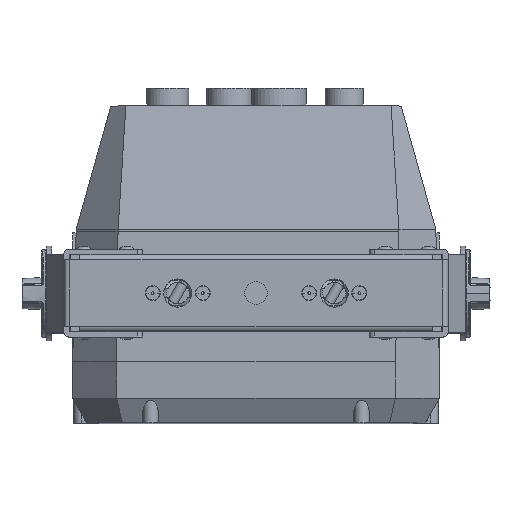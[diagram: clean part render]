
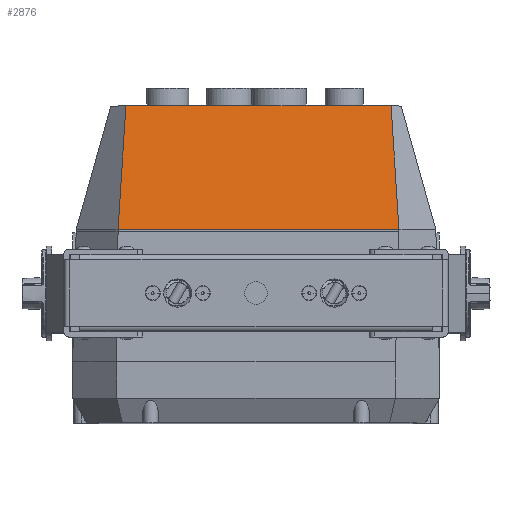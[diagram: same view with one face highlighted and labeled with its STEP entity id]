
A CAD part, top view. The second image highlights one B-rep face of the part: STEP entity #2876.
In plain terms, the highlighted planar face has unit normal (0, 0.152, 0.988).
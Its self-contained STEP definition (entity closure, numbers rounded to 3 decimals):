
#467=DIRECTION('',(0.063,0.986,-0.152));
#468=VECTOR('',#467,70.969);
#469=CARTESIAN_POINT('',(-78.472,110.3,102.3));
#470=LINE('',#469,#468);
#483=DIRECTION('',(1.,0.,0.));
#484=VECTOR('',#483,150.825);
#485=CARTESIAN_POINT('',(-73.998,180.3,91.5));
#486=LINE('',#485,#484);
#1125=DIRECTION('',(-0.063,0.986,-0.152));
#1126=VECTOR('',#1125,70.969);
#1127=CARTESIAN_POINT('',(81.3,110.3,102.3));
#1128=LINE('',#1127,#1126);
#1129=DIRECTION('',(1.,0.,0.));
#1130=VECTOR('',#1129,159.772);
#1131=CARTESIAN_POINT('',(-78.472,110.3,102.3));
#1132=LINE('',#1131,#1130);
#1393=CARTESIAN_POINT('',(-73.998,180.3,91.5));
#1394=VERTEX_POINT('',#1393);
#1395=CARTESIAN_POINT('',(-78.472,110.3,102.3));
#1396=VERTEX_POINT('',#1395);
#1397=CARTESIAN_POINT('',(76.826,180.3,91.5));
#1398=VERTEX_POINT('',#1397);
#1399=CARTESIAN_POINT('',(81.3,110.3,102.3));
#1400=VERTEX_POINT('',#1399);
#2864=CARTESIAN_POINT('',(1.414,145.3,96.9));
#2865=DIRECTION('',(0.,0.152,0.988));
#2866=DIRECTION('',(0.,-0.988,0.152));
#2867=AXIS2_PLACEMENT_3D('',#2864,#2865,#2866);
#2868=PLANE('',#2867);
#2869=ORIENTED_EDGE('',*,*,#1989,.T.);
#2870=ORIENTED_EDGE('',*,*,#2856,.F.);
#2872=ORIENTED_EDGE('',*,*,#2871,.F.);
#2873=ORIENTED_EDGE('',*,*,#1970,.T.);
#2874=EDGE_LOOP('',(#2869,#2870,#2872,#2873));
#2875=FACE_OUTER_BOUND('',#2874,.F.);
#1970=EDGE_CURVE('',#1396,#1394,#470,.T.);
#1989=EDGE_CURVE('',#1394,#1398,#486,.T.);
#2856=EDGE_CURVE('',#1400,#1398,#1128,.T.);
#2871=EDGE_CURVE('',#1396,#1400,#1132,.T.);
#2876=ADVANCED_FACE('',(#2875),#2868,.T.);
